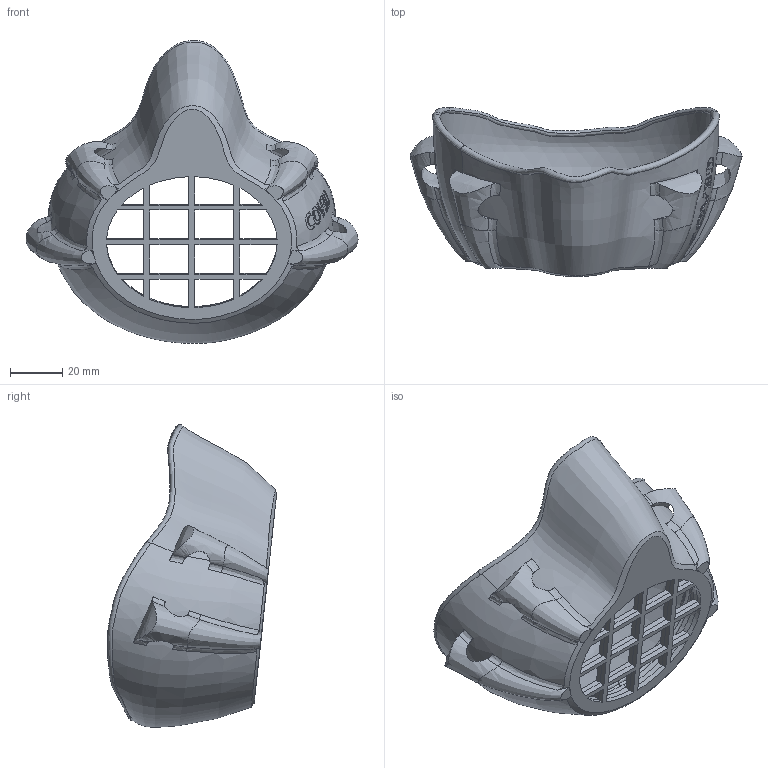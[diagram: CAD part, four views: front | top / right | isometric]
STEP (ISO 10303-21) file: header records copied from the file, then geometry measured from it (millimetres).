
FILE_DESCRIPTION(/* description */ (''),/* implementation_level */ '2;1');
FILE_NAME(/* name */ 'S-MEDI~2',/* time_stamp */ '2020-04-10T21:28:17+03:00',/* author */ (''),/* organization */ (''),/* preprocessor_version */ 'ST-DEVELOPER v16.5',/* originating_system */ '',/* authorisation */ '');
FILE_SCHEMA (('AUTOMOTIVE_DESIGN'));
Length unit declared in the file: millimetre
Products named in the file (1): Document
Bounding box: 127.54 x 65.1 x 116.4 mm (x, y, z)
Volume: 52081.8 mm3; surface area: 45688.2 mm2
Topology: 1 solids, 1 shells, 312 faces, 797 edges, 489 vertices
Faces by surface type: bspline 209, plane 103
Entity records: 184217 total; most frequent: CARTESIAN_POINT 179229, ORIENTED_EDGE 1594, EDGE_CURVE 797, B_SPLINE_CURVE_WITH_KNOTS 625, VERTEX_POINT 489, EDGE_LOOP 354, ADVANCED_FACE 312, FACE_OUTER_BOUND 312
